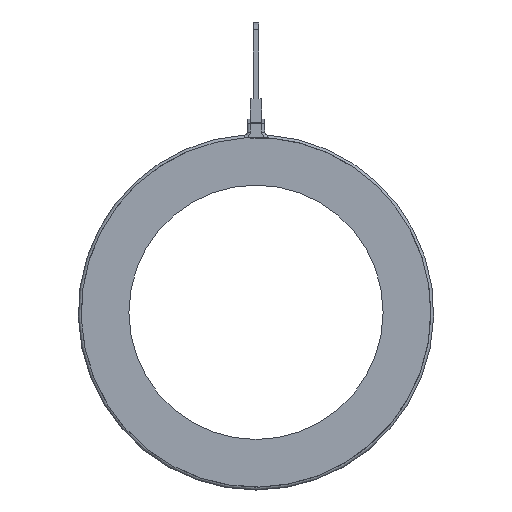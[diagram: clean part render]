
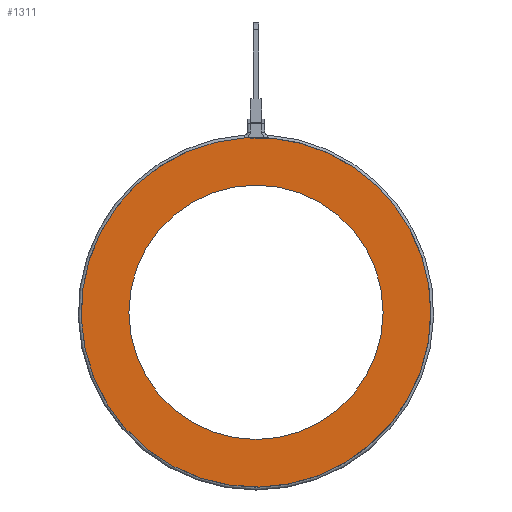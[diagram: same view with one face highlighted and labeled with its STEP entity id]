
A CAD part, front view. The second image highlights one B-rep face of the part: STEP entity #1311.
In plain terms, the highlighted planar face has unit normal (0, -1, 0).
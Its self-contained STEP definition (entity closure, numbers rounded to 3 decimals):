
#46=FACE_BOUND($,#246,.T.);
#81=PLANE($,#1463);
#152=FACE_OUTER_BOUND($,#245,.T.);
#245=EDGE_LOOP($,(#1131));
#246=EDGE_LOOP($,(#1132));
#491=CIRCLE($,#1449,30.25);
#496=CIRCLE($,#1461,22.);
#605=VERTEX_POINT($,#2251);
#616=VERTEX_POINT($,#2284);
#773=EDGE_CURVE($,#605,#605,#491,.T.);
#788=EDGE_CURVE($,#616,#616,#496,.T.);
#1131=ORIENTED_EDGE($,*,*,#773,.T.);
#1132=ORIENTED_EDGE($,*,*,#788,.T.);
#1311=ADVANCED_FACE($,(#152,#46),#81,.T.);
#1449=AXIS2_PLACEMENT_3D($,#2252,#1812,#1813);
#1461=AXIS2_PLACEMENT_3D($,#2285,#1846,#1847);
#1463=AXIS2_PLACEMENT_3D($,#2287,#1850,#1851);
#1812=DIRECTION('center_axis',(0.,-1.,0.));
#1813=DIRECTION('ref_axis',(-1.,0.,0.));
#1846=DIRECTION('center_axis',(0.,1.,0.));
#1847=DIRECTION('ref_axis',(1.,0.,0.));
#1850=DIRECTION('center_axis',(0.,-1.,0.));
#1851=DIRECTION('ref_axis',(0.,0.,-1.));
#2251=CARTESIAN_POINT('',(30.25,0.,0.));
#2252=CARTESIAN_POINT('Origin',(0.,0.,0.));
#2284=CARTESIAN_POINT('',(-22.,0.,0.));
#2285=CARTESIAN_POINT('Origin',(0.,0.,0.));
#2287=CARTESIAN_POINT('Origin',(0.,0.,0.));
